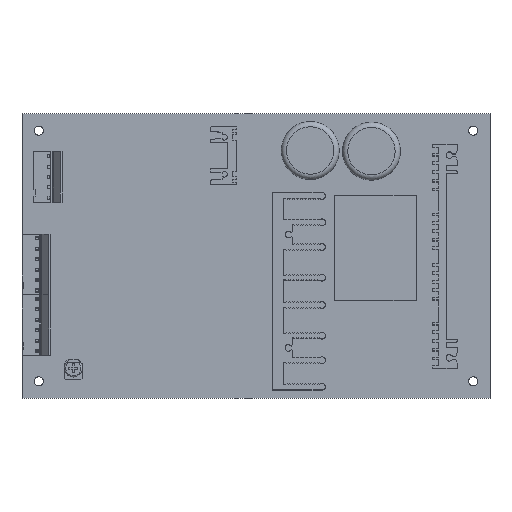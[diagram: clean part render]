
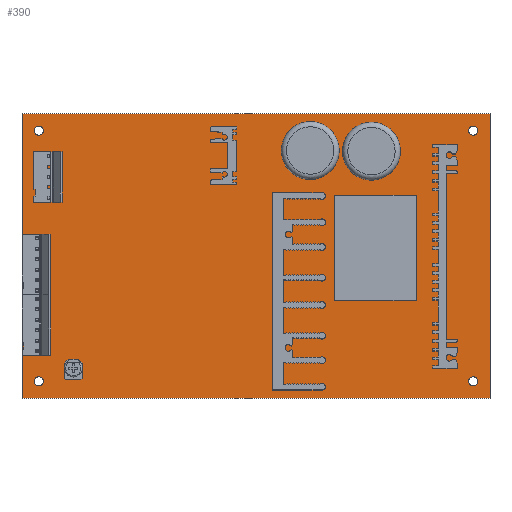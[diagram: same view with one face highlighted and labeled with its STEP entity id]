
A CAD part, top view. The second image highlights one B-rep face of the part: STEP entity #390.
In plain terms, the highlighted planar face has unit normal (0, 0, 1).
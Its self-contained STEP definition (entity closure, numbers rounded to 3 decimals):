
#112=CARTESIAN_POINT('',(-14.601,8.273,1.6));
#113=VERTEX_POINT('',#112);
#114=CARTESIAN_POINT('',(-12.851,8.273,1.6));
#115=DIRECTION('',(0.0,0.0,-1.0));
#116=DIRECTION('',(1.0,0.0,0.0));
#117=AXIS2_PLACEMENT_3D('',#114,#115,#116);
#118=CIRCLE('',#117,1.75);
#119=EDGE_CURVE('',#113,#113,#118,.T.);
#140=CARTESIAN_POINT('',(-14.601,103.523,1.6));
#141=VERTEX_POINT('',#140);
#142=CARTESIAN_POINT('',(-12.851,103.523,1.6));
#143=DIRECTION('',(0.0,0.0,-1.0));
#144=DIRECTION('',(1.0,0.0,0.0));
#145=AXIS2_PLACEMENT_3D('',#142,#143,#144);
#146=CIRCLE('',#145,1.75);
#147=EDGE_CURVE('',#141,#141,#146,.T.);
#168=CARTESIAN_POINT('',(150.499,103.533,1.6));
#169=VERTEX_POINT('',#168);
#170=CARTESIAN_POINT('',(152.249,103.533,1.6));
#171=DIRECTION('',(0.0,0.0,-1.0));
#172=DIRECTION('',(1.0,0.0,0.0));
#173=AXIS2_PLACEMENT_3D('',#170,#171,#172);
#174=CIRCLE('',#173,1.75);
#175=EDGE_CURVE('',#169,#169,#174,.T.);
#196=CARTESIAN_POINT('',(150.499,8.273,1.6));
#197=VERTEX_POINT('',#196);
#198=CARTESIAN_POINT('',(152.249,8.273,1.6));
#199=DIRECTION('',(0.0,0.0,-1.0));
#200=DIRECTION('',(1.0,0.0,0.0));
#201=AXIS2_PLACEMENT_3D('',#198,#199,#200);
#202=CIRCLE('',#201,1.75);
#203=EDGE_CURVE('',#197,#197,#202,.T.);
#224=CARTESIAN_POINT('',(-19.201,109.873,1.6));
#225=VERTEX_POINT('',#224);
#226=CARTESIAN_POINT('',(158.599,109.873,1.6));
#227=VERTEX_POINT('',#226);
#228=CARTESIAN_POINT('',(-19.201,109.873,1.6));
#229=DIRECTION('',(1.0,0.0,0.0));
#230=VECTOR('',#229,177.8);
#231=LINE('',#228,#230);
#232=EDGE_CURVE('',#225,#227,#231,.T.);
#264=CARTESIAN_POINT('',(158.599,1.923,1.6));
#265=VERTEX_POINT('',#264);
#266=CARTESIAN_POINT('',(158.599,109.873,1.6));
#267=DIRECTION('',(0.0,-1.0,0.0));
#268=VECTOR('',#267,107.95);
#269=LINE('',#266,#268);
#270=EDGE_CURVE('',#227,#265,#269,.T.);
#295=CARTESIAN_POINT('',(-19.201,1.923,1.6));
#296=VERTEX_POINT('',#295);
#297=CARTESIAN_POINT('',(158.599,1.923,1.6));
#298=DIRECTION('',(-1.0,0.0,0.0));
#299=VECTOR('',#298,177.8);
#300=LINE('',#297,#299);
#301=EDGE_CURVE('',#265,#296,#300,.T.);
#326=CARTESIAN_POINT('',(-19.201,1.923,1.6));
#327=DIRECTION('',(0.0,1.0,0.0));
#328=VECTOR('',#327,107.95);
#329=LINE('',#326,#328);
#330=EDGE_CURVE('',#296,#225,#329,.T.);
#367=CARTESIAN_POINT('',(69.699,55.898,1.6));
#368=DIRECTION('',(0.0,0.0,1.0));
#369=DIRECTION('',(1.0,0.0,0.0));
#370=AXIS2_PLACEMENT_3D('',#367,#368,#369);
#371=PLANE('',#370);
#372=ORIENTED_EDGE('',*,*,#232,.F.);
#373=ORIENTED_EDGE('',*,*,#330,.F.);
#374=ORIENTED_EDGE('',*,*,#301,.F.);
#375=ORIENTED_EDGE('',*,*,#270,.F.);
#376=EDGE_LOOP('',(#372,#373,#374,#375));
#377=FACE_OUTER_BOUND('',#376,.T.);
#378=ORIENTED_EDGE('',*,*,#119,.T.);
#379=EDGE_LOOP('',(#378));
#380=FACE_BOUND('',#379,.T.);
#381=ORIENTED_EDGE('',*,*,#147,.T.);
#382=EDGE_LOOP('',(#381));
#383=FACE_BOUND('',#382,.T.);
#384=ORIENTED_EDGE('',*,*,#175,.T.);
#385=EDGE_LOOP('',(#384));
#386=FACE_BOUND('',#385,.T.);
#387=ORIENTED_EDGE('',*,*,#203,.T.);
#388=EDGE_LOOP('',(#387));
#389=FACE_BOUND('',#388,.T.);
#390=ADVANCED_FACE('',(#377,#380,#383,#386,#389),#371,.T.);
